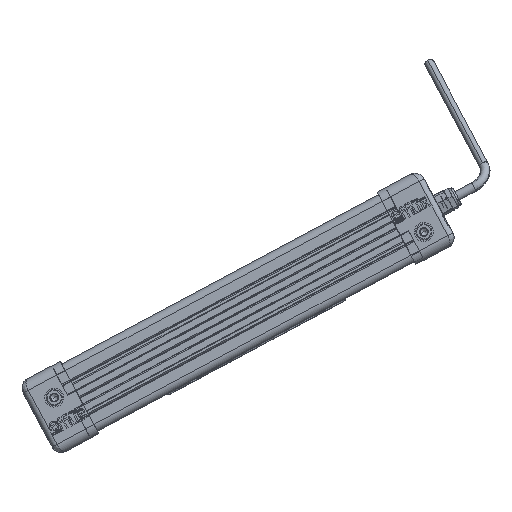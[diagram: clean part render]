
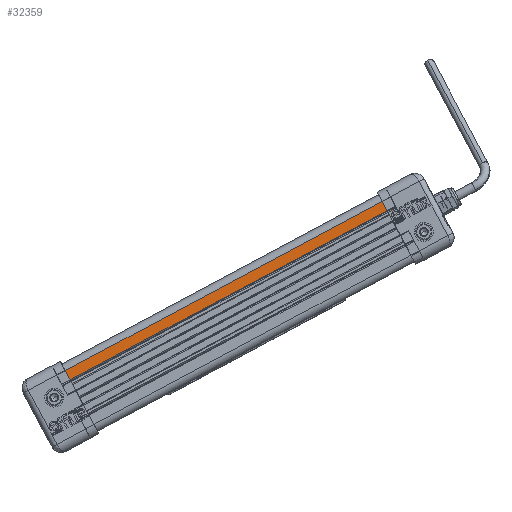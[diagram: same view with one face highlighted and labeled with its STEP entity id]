
A CAD part, front view. The second image highlights one B-rep face of the part: STEP entity #32359.
In plain terms, the highlighted planar face has unit normal (0, -1, 0) as drawn and (-1, 0, 0) by its records, which use the part's own axes.
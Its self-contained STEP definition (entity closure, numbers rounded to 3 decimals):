
#5062 = CARTESIAN_POINT ( 'NONE',  ( -9., 16., 199. ) ) ;
#6548 = VERTEX_POINT ( 'NONE', #19333 ) ;
#8004 = PLANE ( 'NONE',  #30064 ) ;
#8292 = CARTESIAN_POINT ( 'NONE',  ( -9., 16., 199. ) ) ;
#8605 = EDGE_CURVE ( 'NONE', #6548, #49536, #54090, .T. ) ;
#8756 = EDGE_CURVE ( 'NONE', #53044, #49536, #43270, .T. ) ;
#8877 = FACE_OUTER_BOUND ( 'NONE', #56879, .T. ) ;
#10418 = VERTEX_POINT ( 'NONE', #5062 ) ;
#10699 = CARTESIAN_POINT ( 'NONE',  ( -9., 10.5, 0. ) ) ;
#12523 = CARTESIAN_POINT ( 'NONE',  ( -9., 10.5, 199. ) ) ;
#13748 = DIRECTION ( 'NONE',  ( 0., -1., 0. ) ) ;
#17199 = DIRECTION ( 'NONE',  ( 0., 0., -1. ) ) ;
#19333 = CARTESIAN_POINT ( 'NONE',  ( -9., 16., 0. ) ) ;
#23125 = CARTESIAN_POINT ( 'NONE',  ( -9., 16., 0. ) ) ;
#23457 = CARTESIAN_POINT ( 'NONE',  ( -9., 16., 199. ) ) ;
#25615 = EDGE_CURVE ( 'NONE', #10418, #53044, #53477, .T. ) ;
#30064 = AXIS2_PLACEMENT_3D ( 'NONE', #8292, #57130, #30242 ) ;
#30242 = DIRECTION ( 'NONE',  ( 0., 1., 0. ) ) ;
#32359 = ADVANCED_FACE ( 'NONE', ( #8877 ), #8004, .F. ) ;
#36411 = VECTOR ( 'NONE', #53764, 1000. ) ;
#39502 = VECTOR ( 'NONE', #13748, 1000. ) ;
#40500 = ORIENTED_EDGE ( 'NONE', *, *, #8756, .F. ) ;
#40688 = LINE ( 'NONE', #23457, #48195 ) ;
#40893 = CARTESIAN_POINT ( 'NONE',  ( -9., 10.5, 199. ) ) ;
#41270 = DIRECTION ( 'NONE',  ( 0., 0., -1. ) ) ;
#42445 = ORIENTED_EDGE ( 'NONE', *, *, #25615, .F. ) ;
#43270 = LINE ( 'NONE', #12523, #44199 ) ;
#44199 = VECTOR ( 'NONE', #17199, 1000. ) ;
#44748 = CARTESIAN_POINT ( 'NONE',  ( -9., 16., 199. ) ) ;
#48195 = VECTOR ( 'NONE', #41270, 1000. ) ;
#49418 = ORIENTED_EDGE ( 'NONE', *, *, #50317, .T. ) ;
#49536 = VERTEX_POINT ( 'NONE', #10699 ) ;
#50317 = EDGE_CURVE ( 'NONE', #10418, #6548, #40688, .T. ) ;
#51660 = ORIENTED_EDGE ( 'NONE', *, *, #8605, .T. ) ;
#53044 = VERTEX_POINT ( 'NONE', #40893 ) ;
#53477 = LINE ( 'NONE', #44748, #36411 ) ;
#53764 = DIRECTION ( 'NONE',  ( 0., -1., 0. ) ) ;
#54090 = LINE ( 'NONE', #23125, #39502 ) ;
#56879 = EDGE_LOOP ( 'NONE', ( #51660, #40500, #42445, #49418 ) ) ;
#57130 = DIRECTION ( 'NONE',  ( 1., 0., 0. ) ) ;
